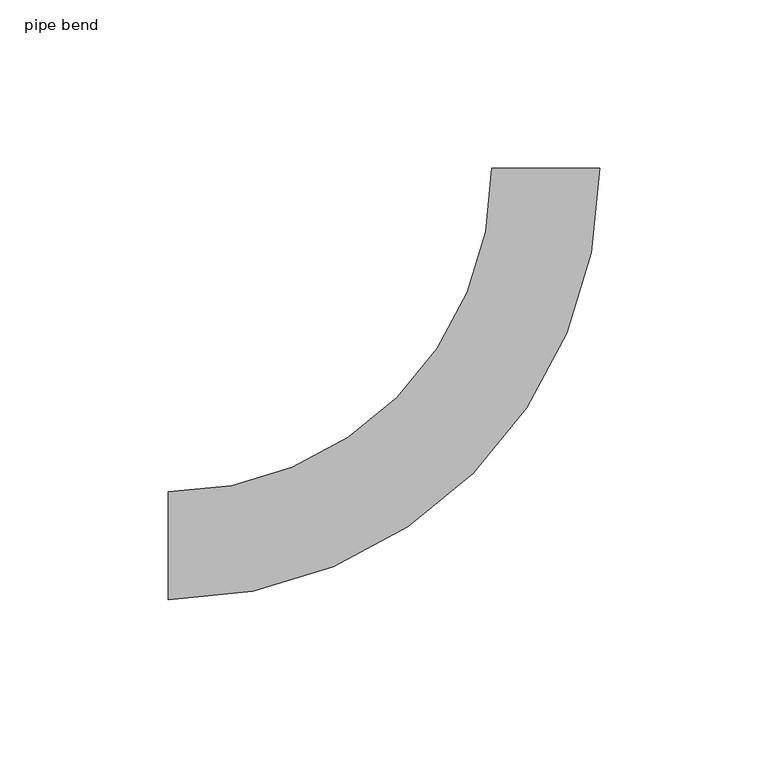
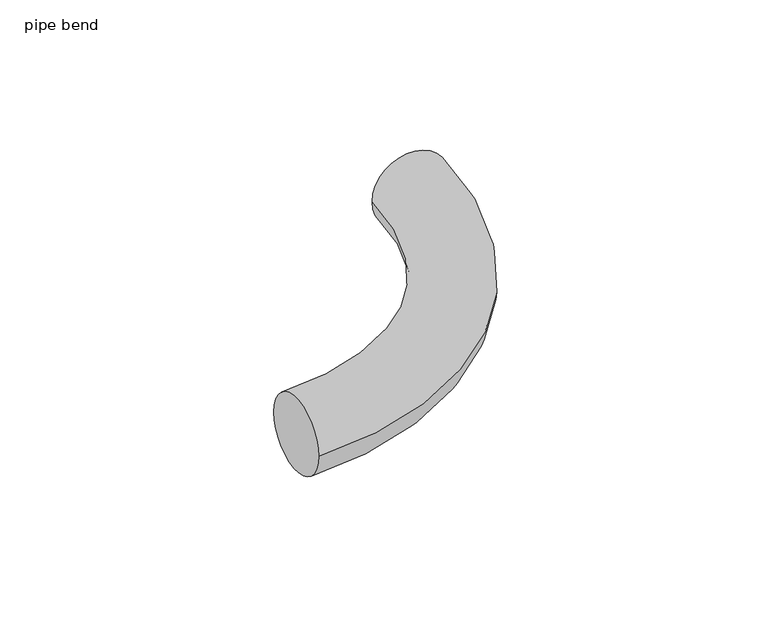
"""IFC4 building model written with IfcOpenShell, lengths in millimetres: pipe fitting geometry, pipe bend : PE-RT EVOH."""

from ifc_helpers import new_model, si_unit, point, frame, origin, place, context, project, spatial, circle_curve, ellipse_curve, trimmed, source, transform, mapped, element, save
from ifc_brep_helpers import plane_surface, revolved_surface, advanced_brep


def pipe_bend_b33eb2ab(model_context):
    return source(origin(), model_context, "Body", "AdvancedBrep", [
        advanced_brep(
        [(-112.0, -16.0, 0.0), (-112.0, 16.0, 0.0), (16.0, 112.0, 0.0), (-16.0, 112.0, 0.0)],
        [
            (0, 1, circle_curve(frame((-112.0, 0.0, 0.0), z_axis=(-1.0, 0.0, 0.0), x_axis=(0.0, 1.0, 0.0)), 16.0)),
            (1, 0, circle_curve(frame((-112.0, 0.0, 0.0), z_axis=(-1.0, 0.0, 0.0), x_axis=(0.0, 1.0, 0.0)), 16.0)),
            (2, 3, circle_curve(frame((0.0, 112.0, 0.0), z_axis=(0.0, 1.0, 0.0), x_axis=(-1.0, 0.0, 0.0)), 16.0)),
            (3, 2, circle_curve(frame((0.0, 112.0, 0.0), z_axis=(0.0, 1.0, 0.0), x_axis=(-1.0, 0.0, 0.0)), 16.0)),
            (3, 1, circle_curve(frame((-112.0, 112.0, 0.0), z_axis=(0.0, 0.0, -1.0), x_axis=(0.0, -1.0, 0.0)), 96.0)),
            (0, 2, circle_curve(frame((-112.0, 112.0, 0.0), z_axis=(0.0, 0.0, 1.0), x_axis=(0.0, -1.0, 0.0)), 128.0)),
        ],
        [
            plane_surface(frame((-112.0, 0.0, 0.0), z_axis=(-1.0, 0.0, 0.0), x_axis=(0.0, 0.0, 1.0))),
            plane_surface(frame((0.0, 112.0, 0.0), z_axis=(0.0, 1.0, 0.0), x_axis=(0.0, 0.0, 1.0))),
            revolved_surface(trimmed(ellipse_curve(frame((-112.0, 0.0, 0.0), z_axis=(-1.0, 0.0, 0.0), x_axis=(0.0, 1.0, 0.0)), 16.0, 16.0), [point((-112.0, -16.0, 0.0))], [point((-112.0, 16.0, 0.0))], True, "CARTESIAN"), (-112.0, 112.0, 0.0), (0.0, 0.0, 1.0)),
            revolved_surface(trimmed(ellipse_curve(frame((-112.0, 0.0, 0.0), z_axis=(-1.0, 0.0, 0.0), x_axis=(0.0, 1.0, 0.0)), 16.0, 16.0), [point((-112.0, 16.0, 0.0))], [point((-112.0, -16.0, 0.0))], True, "CARTESIAN"), (-112.0, 112.0, 0.0), (0.0, 0.0, 1.0)),
        ],
        [
            (0, [[1, 2]]),
            (1, [[3, 4]]),
            (2, [[5, -1, 6, -4]]),
            (3, [[-6, -2, -5, -3]]),
        ],
    ),
    ])


if __name__ == "__main__":
    model = new_model("IFC4")
    model_context = context("Model", 3, world=origin())
    ifc_project = project(units=[si_unit("LENGTHUNIT", "METRE", prefix="MILLI")], contexts=[model_context])
    site = spatial("IfcSite", under=ifc_project)
    building = spatial("IfcBuilding", under=site)
    placement = place(None, origin())
    pipe_bend_shape = pipe_bend_b33eb2ab(model_context)
    element("IfcPipeFitting", 1, ObjectType="pipe bend : PE-RT EVOH", at=placement, inside=building, context=model_context, shape_type="MappedRepresentation", body=[
        mapped(pipe_bend_shape, transform((0.0, 0.0, 0.0), x_axis=(1.0, 0.0, 0.0), y_axis=(0.0, 1.0, 0.0), z_axis=(0.0, 0.0, 1.0))),
    ])
    save(model, "model.ifc")
